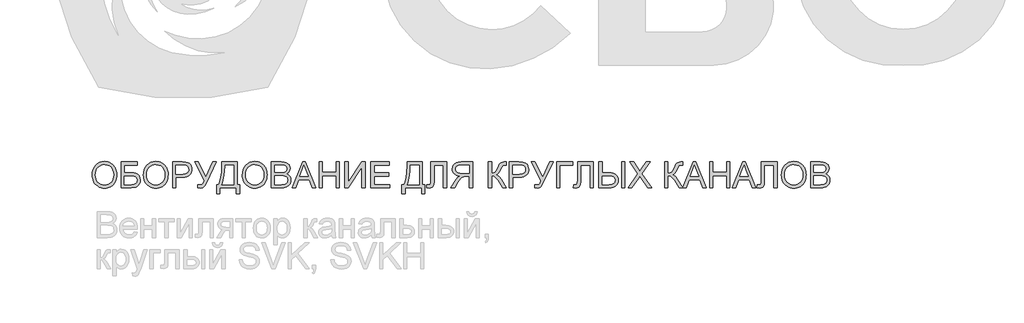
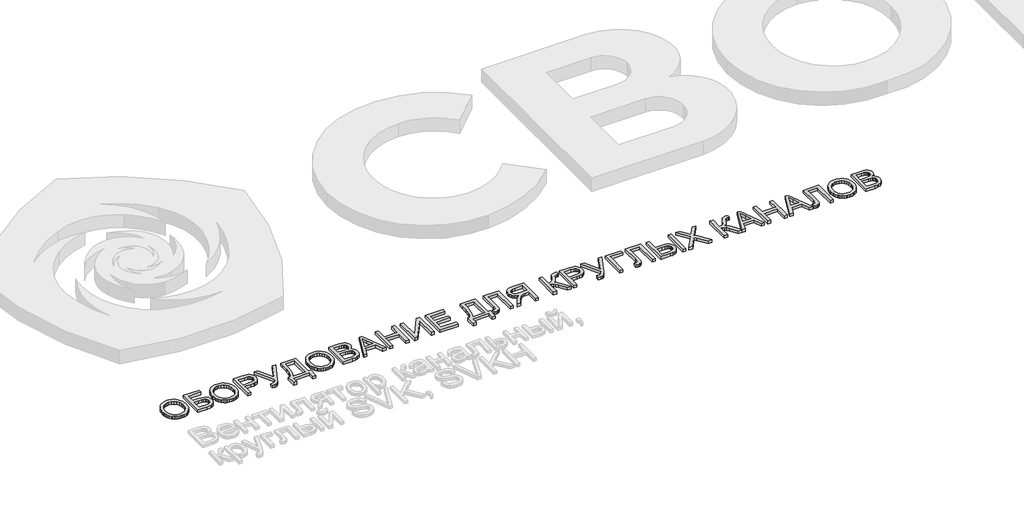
# One storey, part 18 of 31: 1 proxy.
"""IFC4 building model written with IfcOpenShell, lengths in millimetres."""

from ifc_helpers import new_model, si_unit, origin, origin_with_axes, place, context, project, spatial, polyline, outline, extrude, element, save

model = new_model("IFC4")

# Units and contexts
model_context = context("Model", 3, world=origin())
ifc_project = project(units=[si_unit("LENGTHUNIT", "METRE", prefix="MILLI")], contexts=[model_context])

# Site, building, storey
site = spatial("IfcSite", under=ifc_project)
building = spatial("IfcBuilding", under=site)
storey = spatial("IfcBuildingStorey", under=building, Name="Этаж 01", Elevation=0.0)

# Proxy
placement = place(None, origin())
element("IfcBuildingElementProxy", 1, Name="450 мм Arial", ObjectType="450 мм Arial", at=placement, inside=storey, context=model_context, shape_type="SweptSolid", body=[
    extrude(outline(polyline([(726.643365, -1393.708141), (730.3895847, -1340.9660333), (741.6282438, -1294.2755113), (760.3593423, -1253.6365749), (786.5828801, -1219.0492242), (818.7276407, -1191.432861), (855.2224073, -1171.7068874), (896.0671799, -1159.8713032), (941.2619586, -1155.9261084), (971.5130257, -1157.7786347), (1000.2409046, -1163.3362133), (1027.4455952, -1172.5988444), (1053.1270976, -1185.566528), (1076.5649849, -1201.8481751), (1097.0388303, -1221.052697), (1114.5486337, -1243.1800935), (1129.0943952, -1268.2303648), (1140.5251681, -1295.6340305), (1148.6900059, -1324.8216103), (1153.5889086, -1355.7931043), (1155.2218761, -1388.5485124), (1153.5031435, -1421.7361766), (1148.3469455, -1453.1262043), (1139.7532822, -1482.7185954), (1127.7221535, -1510.51335), (1112.5382997, -1535.7763187), (1094.4864609, -1557.7733523), (1073.5666369, -1576.5044508), (1049.778828, -1591.9696141), (1024.0595889, -1604.0727854), (997.3454747, -1612.7179078), (969.6364852, -1617.9049812), (940.9326206, -1619.6340057), (910.1532404, -1617.7231592), (881.0479951, -1611.9906197), (853.6168846, -1602.4363873), (827.8599089, -1589.0604618), (804.4494664, -1572.3808646), (784.0579555, -1552.9156168), (766.6853763, -1530.6647185), (752.3317286, -1505.6281697), (741.0930696, -1478.8111373), (733.0654559, -1451.2187884), (728.2488877, -1422.851123), (726.643365, -1393.708141)]), holes=[polyline([(782.8503829, -1394.2570376), (785.6600476, -1431.5202596), (794.089042, -1464.5981445), (808.1373658, -1493.4906923), (827.8050192, -1518.1979032), (851.7128993, -1537.9856277), (878.4819032, -1552.1197167), (908.112031, -1560.6001701), (940.6032826, -1563.4269879), (973.650292, -1560.5727252), (1003.6303414, -1552.0099374), (1030.5434307, -1537.7386242), (1054.3895599, -1517.7587859), (1073.913128, -1492.5301232), (1087.8585337, -1462.5123372), (1096.2257771, -1427.7054278), (1099.0148583, -1388.1093951), (1094.2394574, -1338.351913), (1079.9132546, -1295.3458597), (1056.4067552, -1260.1753063), (1024.0904644, -1233.9243236), (985.1050792, -1217.5809256), (941.5912966, -1212.1331263), (910.2287137, -1214.7575384), (881.1303296, -1222.6307749), (854.2961442, -1235.7528356), (829.7261575, -1254.1237207), (809.2180061, -1278.6285259), (794.5693265, -1310.1523471), (785.7801188, -1348.6951844), (782.8503829, -1394.2570376)])]), origin_with_axes(), (0.0, 0.0, 1.0), 50.0),
    extrude(outline(polyline([(1232.5065257, -1162.9519857), (1513.5416149, -1162.9519857), (1513.5416149, -1219.1590035), (1288.7135435, -1219.1590035), (1288.7135435, -1352.6506709), (1393.9919227, -1352.6506709), (1446.3292191, -1355.5049335), (1486.755458, -1364.0677214), (1517.7955641, -1380.562066), (1541.9744619, -1407.2109988), (1557.5356821, -1441.51704), (1562.7227556, -1480.9827097), (1559.0314255, -1514.1223455), (1547.9574355, -1545.0389498), (1529.555675, -1572.1132775), (1503.8810338, -1593.7260834), (1486.6525399, -1601.9869781), (1464.2781398, -1607.8876172), (1404.0916212, -1612.6081285), (1232.5065257, -1612.6081285), (1232.5065257, -1162.9519857)]), holes=[polyline([(1288.7135435, -1556.4011106), (1409.1414705, -1556.4011106), (1451.7084063, -1551.7629339), (1468.4428932, -1545.9652129), (1482.1447261, -1537.8484036), (1492.8070437, -1527.4125058), (1500.4229848, -1514.6575197), (1504.9925495, -1499.5834452), (1506.5157377, -1482.1902824), (1503.0302439, -1458.0113846), (1492.5737626, -1438.1687703), (1475.9010266, -1423.4583399), (1453.7667688, -1414.6759934), (1420.1605709, -1410.3122649), (1369.0720144, -1408.8576888), (1288.7135435, -1408.8576888), (1288.7135435, -1556.4011106)])]), origin_with_axes(), (0.0, 0.0, 1.0), 50.0),
    extrude(outline(polyline([(1618.9297734, -1393.708141), (1622.6759931, -1340.9660333), (1633.9146522, -1294.2755113), (1652.6457507, -1253.6365749), (1678.8692886, -1219.0492242), (1711.0140491, -1191.432861), (1747.5088157, -1171.7068874), (1788.3535883, -1159.8713032), (1833.548367, -1155.9261084), (1863.7994341, -1157.7786347), (1892.527313, -1163.3362133), (1919.7320036, -1172.5988444), (1945.413506, -1185.566528), (1968.8513934, -1201.8481751), (1989.3252387, -1221.052697), (2006.8350421, -1243.1800935), (2021.3808036, -1268.2303648), (2032.8115765, -1295.6340305), (2040.9764143, -1324.8216103), (2045.875317, -1355.7931043), (2047.5082845, -1388.5485124), (2045.7895519, -1421.7361766), (2040.6333539, -1453.1262043), (2032.0396906, -1482.7185954), (2020.0085619, -1510.51335), (2004.8247081, -1535.7763187), (1986.7728693, -1557.7733523), (1965.8530454, -1576.5044508), (1942.0652364, -1591.9696141), (1916.3459973, -1604.0727854), (1889.6318831, -1612.7179078), (1861.9228936, -1617.9049812), (1833.219029, -1619.6340057), (1802.4396488, -1617.7231592), (1773.3344035, -1611.9906197), (1745.903293, -1602.4363873), (1720.1463173, -1589.0604618), (1696.7358748, -1572.3808646), (1676.3443639, -1552.9156168), (1658.9717847, -1530.6647185), (1644.618137, -1505.6281697), (1633.379478, -1478.8111373), (1625.3518643, -1451.2187884), (1620.5352961, -1422.851123), (1618.9297734, -1393.708141)]), holes=[polyline([(1675.1367913, -1394.2570376), (1677.946456, -1431.5202596), (1686.3754504, -1464.5981445), (1700.4237742, -1493.4906923), (1720.0914276, -1518.1979032), (1743.9993077, -1537.9856277), (1770.7683116, -1552.1197167), (1800.3984394, -1560.6001701), (1832.889691, -1563.4269879), (1865.9367004, -1560.5727252), (1895.9167498, -1552.0099374), (1922.8298391, -1537.7386242), (1946.6759683, -1517.7587859), (1966.1995364, -1492.5301232), (1980.1449421, -1462.5123372), (1988.5121855, -1427.7054278), (1991.3012667, -1388.1093951), (1986.5258658, -1338.351913), (1972.199663, -1295.3458597), (1948.6931636, -1260.1753063), (1916.3768728, -1233.9243236), (1877.3914876, -1217.5809256), (1833.877705, -1212.1331263), (1802.5151221, -1214.7575384), (1773.416738, -1222.6307749), (1746.5825526, -1235.7528356), (1722.0125659, -1254.1237207), (1701.5044145, -1278.6285259), (1686.8557349, -1310.1523471), (1678.0665272, -1348.6951844), (1675.1367913, -1394.2570376)])]), origin_with_axes(), (0.0, 0.0, 1.0), 50.0),
    extrude(outline(polyline([(2124.7929341, -1612.6081285), (2124.7929341, -1162.9519857), (2291.4379597, -1162.9519857), (2358.6229107, -1167.2333796), (2388.5789459, -1175.2335484), (2413.2381282, -1188.2561216), (2433.0944649, -1206.8911632), (2448.6419627, -1231.728737), (2458.6867716, -1261.0260962), (2462.0350412, -1293.0404938), (2459.7742731, -1320.6431345), (2452.9919688, -1346.0364662), (2441.6881282, -1369.2204888), (2425.8627514, -1390.1952024), (2404.1367355, -1407.581504), (2375.1309777, -1420.0002909), (2338.845478, -1427.4515631), (2295.2802363, -1429.9353205), (2180.9999519, -1429.9353205), (2180.9999519, -1612.6081285), (2124.7929341, -1612.6081285)]), holes=[polyline([(2180.9999519, -1373.7283026), (2298.5736162, -1373.7283026), (2348.4134329, -1368.568674), (2366.9935847, -1362.1191383), (2381.3472324, -1353.0897882), (2392.0575784, -1341.7207662), (2399.7078256, -1328.2522144), (2404.2979739, -1312.684133), (2405.8280234, -1295.0165218), (2402.2190278, -1269.7672755), (2391.3920412, -1248.4700851), (2374.6918604, -1232.4423027), (2353.4632821, -1223.0012801), (2297.2562643, -1219.1590035), (2180.9999519, -1219.1590035), (2180.9999519, -1373.7283026)])]), origin_with_axes(), (0.0, 0.0, 1.0), 50.0),
    extrude(outline(polyline([(2507.7032432, -1162.9519857), (2569.9481243, -1162.9519857), (2704.4278057, -1429.2766445), (2825.4046293, -1162.9519857), (2887.1006137, -1162.9519857), (2716.3937529, -1513.2578333), (2690.6230547, -1567.6534921), (2669.9570955, -1599.3248293), (2659.9191479, -1608.210094), (2647.9188947, -1614.5567116), (2618.0314716, -1619.6340057), (2567.4231997, -1612.6081285), (2567.4231997, -1563.4269879), (2611.6642704, -1563.4269879), (2629.3661876, -1560.2982769), (2644.4882906, -1550.912144), (2659.0066072, -1530.4108538), (2674.8971655, -1493.9366709), (2507.7032432, -1162.9519857)])), origin_with_axes(), (0.0, 0.0, 1.0), 50.0),
    extrude(outline(polyline([(2981.9499563, -1162.9519857), (3248.9332911, -1162.9519857), (3248.9332911, -1556.4011106), (3291.0885545, -1556.4011106), (3291.0885545, -1717.996287), (3234.8815367, -1717.996287), (3234.8815367, -1612.6081285), (2946.8205702, -1612.6081285), (2946.8205702, -1717.996287), (2890.6135523, -1717.996287), (2890.6135523, -1556.4011106), (2925.7429385, -1556.4011106), (2938.9164583, -1533.5001128), (2950.3335088, -1505.4154722), (2967.8982019, -1433.6952626), (2978.4370177, -1341.2404816), (2981.9499563, -1228.0511294), (2981.9499563, -1162.9519857)]), holes=[polyline([(3192.7262733, -1219.1590035), (3038.1569742, -1219.1590035), (3038.1569742, -1241.7735459), (3035.3027116, -1308.4370451), (3026.7399237, -1395.7939483), (3019.6591568, -1442.4707479), (3009.8339066, -1484.7975415), (2997.2641731, -1522.7743291), (2981.9499563, -1556.4011106), (3192.7262733, -1556.4011106), (3192.7262733, -1219.1590035)])]), origin_with_axes(), (0.0, 0.0, 1.0), 50.0),
    extrude(outline(polyline([(3340.2696951, -1393.708141), (3344.0159148, -1340.9660333), (3355.2545739, -1294.2755113), (3373.9856724, -1253.6365749), (3400.2092103, -1219.0492242), (3432.3539709, -1191.432861), (3468.8487374, -1171.7068874), (3509.6935101, -1159.8713032), (3554.8882887, -1155.9261084), (3585.1393558, -1157.7786347), (3613.8672347, -1163.3362133), (3641.0719253, -1172.5988444), (3666.7534277, -1185.566528), (3690.1913151, -1201.8481751), (3710.6651604, -1221.052697), (3728.1749639, -1243.1800935), (3742.7207253, -1268.2303648), (3754.1514982, -1295.6340305), (3762.316336, -1324.8216103), (3767.2152387, -1355.7931043), (3768.8482063, -1388.5485124), (3767.1294736, -1421.7361766), (3761.9732756, -1453.1262043), (3753.3796123, -1482.7185954), (3741.3484837, -1510.51335), (3726.1646298, -1535.7763187), (3708.112791, -1557.7733523), (3687.1929671, -1576.5044508), (3663.4051581, -1591.9696141), (3637.6859191, -1604.0727854), (3610.9718048, -1612.7179078), (3583.2628154, -1617.9049812), (3554.5589507, -1619.6340057), (3523.7795706, -1617.7231592), (3494.6743252, -1611.9906197), (3467.2432147, -1602.4363873), (3441.486239, -1589.0604618), (3418.0757965, -1572.3808646), (3397.6842856, -1552.9156168), (3380.3117064, -1530.6647185), (3365.9580588, -1505.6281697), (3354.7193997, -1478.8111373), (3346.6917861, -1451.2187884), (3341.8752179, -1422.851123), (3340.2696951, -1393.708141)]), holes=[polyline([(3396.476713, -1394.2570376), (3399.2863778, -1431.5202596), (3407.7153721, -1464.5981445), (3421.7636959, -1493.4906923), (3441.4313493, -1518.1979032), (3465.3392294, -1537.9856277), (3492.1082334, -1552.1197167), (3521.7383611, -1560.6001701), (3554.2296127, -1563.4269879), (3587.2766222, -1560.5727252), (3617.2566715, -1552.0099374), (3644.1697608, -1537.7386242), (3668.0158901, -1517.7587859), (3687.5394581, -1492.5301232), (3701.4848638, -1462.5123372), (3709.8521073, -1427.7054278), (3712.6411884, -1388.1093951), (3707.8657875, -1338.351913), (3693.5395847, -1295.3458597), (3670.0330853, -1260.1753063), (3637.7167945, -1233.9243236), (3598.7314093, -1217.5809256), (3555.2176267, -1212.1331263), (3523.8550439, -1214.7575384), (3494.7566597, -1222.6307749), (3467.9224743, -1235.7528356), (3443.3524877, -1254.1237207), (3422.8443362, -1278.6285259), (3408.1956567, -1310.1523471), (3399.4064489, -1348.6951844), (3396.476713, -1394.2570376)])]), origin_with_axes(), (0.0, 0.0, 1.0), 50.0),
    extrude(outline(polyline([(3846.1328558, -1612.6081285), (3846.1328558, -1162.9519857), (4017.7179513, -1162.9519857), (4064.9093416, -1166.259088), (4101.7540298, -1176.1803951), (4129.9947629, -1192.9629105), (4151.3742877, -1216.8536376), (4164.8359783, -1244.9571465), (4169.3232085, -1274.3780074), (4165.5495439, -1301.4523351), (4154.2285503, -1326.9074176), (4135.2778932, -1349.1788996), (4108.615238, -1366.7024254), (4140.4649666, -1383.3339941), (4163.9989109, -1408.6381301), (4178.5309499, -1440.9406985), (4183.3749629, -1478.5675644), (4180.0678606, -1509.9232861), (4170.1465535, -1539.0010866), (4155.3400661, -1563.728881), (4137.3774229, -1582.0345846), (4115.3803893, -1595.2904389), (4088.4707306, -1604.8686856), (4055.7702122, -1610.6732678), (4016.4005993, -1612.6081285), (3846.1328558, -1612.6081285)]), holes=[polyline([(3902.3398737, -1345.6247937), (4004.9835488, -1345.6247937), (4040.8813903, -1344.417221), (4064.923064, -1340.7945031), (4085.9046388, -1332.4649963), (4100.9855745, -1319.9913197), (4110.0835366, -1303.5655872), (4113.1161906, -1283.3799126), (4110.2893728, -1263.7843019), (4101.8089194, -1246.7136158), (4088.0590581, -1233.3891494), (4069.4240166, -1225.0321978), (4040.8265007, -1220.6273021), (3997.1892163, -1219.1590035), (3902.3398737, -1219.1590035), (3902.3398737, -1345.6247937)]), polyline([(3902.3398737, -1556.4011106), (4017.608172, -1556.4011106), (4059.3243181, -1554.205524), (4078.6866477, -1549.3340662), (4094.6183732, -1541.9651285), (4107.5723344, -1531.4125902), (4118.0013709, -1516.9903305), (4124.8763015, -1499.343303), (4127.1679451, -1479.1164611), (4124.4783514, -1455.6236841), (4116.4095706, -1435.4242871), (4102.3166489, -1419.6297857), (4081.5546327, -1409.3516958), (4052.1474942, -1403.7117826), (4012.1192054, -1401.8318115), (3902.3398737, -1401.8318115), (3902.3398737, -1556.4011106)])]), origin_with_axes(), (0.0, 0.0, 1.0), 50.0),
    extrude(outline(polyline([(4208.2948712, -1612.6081285), (4387.7840786, -1162.9519857), (4435.6478673, -1162.9519857), (4615.1370747, -1612.6081285), (4555.7464562, -1612.6081285), (4504.2599496, -1472.0905839), (4319.062217, -1472.0905839), (4267.6854897, -1612.6081285), (4208.2948712, -1612.6081285)]), holes=[polyline([(4339.7007313, -1415.883566), (4483.7312146, -1415.883566), (4443.2226412, -1305.3357789), (4411.715973, -1219.1590035), (4383.7222434, -1295.6751977), (4339.7007313, -1415.883566)])]), origin_with_axes(), (0.0, 0.0, 1.0), 50.0),
    extrude(outline(polyline([(4675.1863691, -1612.6081285), (4675.1863691, -1162.9519857), (4731.393387, -1162.9519857), (4731.393387, -1345.6247937), (4970.2732129, -1345.6247937), (4970.2732129, -1162.9519857), (5026.4802307, -1162.9519857), (5026.4802307, -1612.6081285), (4970.2732129, -1612.6081285), (4970.2732129, -1401.8318115), (4731.393387, -1401.8318115), (4731.393387, -1612.6081285), (4675.1863691, -1612.6081285)])), origin_with_axes(), (0.0, 0.0, 1.0), 50.0),
    extrude(outline(polyline([(5124.842512, -1162.9519857), (5181.0495298, -1162.9519857), (5181.0495298, -1519.0761378), (5416.4164171, -1162.9519857), (5476.1363735, -1162.9519857), (5476.1363735, -1612.6081285), (5419.9293557, -1612.6081285), (5419.9293557, -1257.4719903), (5185.1113651, -1612.6081285), (5124.842512, -1612.6081285), (5124.842512, -1162.9519857)])), origin_with_axes(), (0.0, 0.0, 1.0), 50.0),
    extrude(outline(polyline([(5574.4986548, -1612.6081285), (5574.4986548, -1162.9519857), (5897.6890074, -1162.9519857), (5897.6890074, -1219.1590035), (5630.7056726, -1219.1590035), (5630.7056726, -1352.6506709), (5883.637253, -1352.6506709), (5883.637253, -1408.8576888), (5630.7056726, -1408.8576888), (5630.7056726, -1556.4011106), (5904.7148847, -1556.4011106), (5904.7148847, -1612.6081285), (5574.4986548, -1612.6081285)])), origin_with_axes(), (0.0, 0.0, 1.0), 50.0),
    extrude(outline(polyline([(6206.8276056, -1162.9519857), (6473.8109404, -1162.9519857), (6473.8109404, -1556.4011106), (6515.9662038, -1556.4011106), (6515.9662038, -1717.996287), (6459.7591859, -1717.996287), (6459.7591859, -1612.6081285), (6171.6982194, -1612.6081285), (6171.6982194, -1717.996287), (6115.4912016, -1717.996287), (6115.4912016, -1556.4011106), (6150.6205878, -1556.4011106), (6163.7941076, -1533.5001128), (6175.2111581, -1505.4154722), (6192.7758511, -1433.6952626), (6203.314667, -1341.2404816), (6206.8276056, -1228.0511294), (6206.8276056, -1162.9519857)]), holes=[polyline([(6417.6039226, -1219.1590035), (6263.0346235, -1219.1590035), (6263.0346235, -1241.7735459), (6260.1803608, -1308.4370451), (6251.617573, -1395.7939483), (6244.5368061, -1442.4707479), (6234.7115559, -1484.7975415), (6222.1418224, -1522.7743291), (6206.8276056, -1556.4011106), (6417.6039226, -1556.4011106), (6417.6039226, -1219.1590035)])]), origin_with_axes(), (0.0, 0.0, 1.0), 50.0),
    extrude(outline(polyline([(6621.3543623, -1162.9519857), (6895.3635743, -1162.9519857), (6895.3635743, -1612.6081285), (6839.1565564, -1612.6081285), (6839.1565564, -1219.1590035), (6677.5613801, -1219.1590035), (6677.5613801, -1448.5978069), (6675.9284126, -1509.0999411), (6671.0295099, -1550.9670337), (6660.9160889, -1579.8938876), (6643.6395666, -1601.5753056), (6619.9821206, -1615.1193307), (6590.7259287, -1619.6340057), (6544.0697127, -1612.6081285), (6551.09559, -1556.4011106), (6577.9915262, -1563.4269879), (6596.997073, -1559.6533233), (6610.5410981, -1548.3323297), (6618.6510462, -1523.0144714), (6621.3543623, -1477.2502124), (6621.3543623, -1162.9519857)])), origin_with_axes(), (0.0, 0.0, 1.0), 50.0),
    extrude(outline(polyline([(7345.0197171, -1612.6081285), (7288.8126993, -1612.6081285), (7288.8126993, -1415.883566), (7220.9690722, -1415.883566), (7188.3646107, -1417.859594), (7161.6333434, -1428.5630788), (7147.6502011, -1439.7194034), (7131.9380342, -1457.7094914), (7089.6729915, -1519.4054758), (7031.1606077, -1612.6081285), (6965.8419053, -1612.6081285), (7040.8211889, -1490.7530702), (7086.3796115, -1432.8993624), (7118.3253971, -1408.8576888), (7088.5649063, -1402.9090212), (7062.9554466, -1393.9551445), (7041.4970179, -1381.9960585), (7024.1896201, -1367.0317634), (7010.8617231, -1349.6180169), (7001.3417967, -1330.3105769), (6995.6298408, -1309.1094435), (6993.7258555, -1286.0146166), (6998.3228651, -1250.4049458), (7012.1138936, -1218.0063205), (7033.6031978, -1191.8788396), (7061.2950342, -1175.0826018), (7099.1826261, -1165.9846397), (7151.2591966, -1162.9519857), (7345.0197171, -1162.9519857), (7345.0197171, -1612.6081285)]), holes=[polyline([(7288.8126993, -1359.6765481), (7288.8126993, -1219.1590035), (7148.8440513, -1219.1590035), (7104.3696995, -1224.0167389), (7087.3093052, -1230.0889082), (7073.7000987, -1238.5899452), (7055.8746797, -1260.6830358), (7051.418325, -1273.7261926), (7049.9328734, -1288.1004239), (7053.0478619, -1307.9567605), (7062.3928275, -1326.2487416), (7077.7344892, -1341.3708446), (7098.8395657, -1351.7175466), (7126.8744625, -1357.6867978), (7163.0055851, -1359.6765481), (7288.8126993, -1359.6765481)])]), origin_with_axes(), (0.0, 0.0, 1.0), 50.0),
    extrude(outline(polyline([(7619.0289291, -1162.9519857), (7675.235947, -1162.9519857), (7675.235947, -1359.6765481), (7713.2882079, -1355.9577733), (7738.0846144, -1344.8014487), (7758.1330649, -1318.550466), (7781.9414574, -1269.5477168), (7812.9541187, -1206.6990494), (7827.9115526, -1189.6695305), (7848.0835048, -1175.5766088), (7872.0291216, -1166.1081415), (7898.3075491, -1162.9519857), (7935.1934046, -1163.6106617), (7935.1934046, -1219.8176795), (7922.7883401, -1219.4883415), (7910.3832756, -1219.1590035), (7884.6400223, -1222.534718), (7866.4715429, -1232.6618613), (7850.8279881, -1253.9316068), (7833.098626, -1290.5155692), (7811.3485959, -1336.0739918), (7793.3036183, -1360.9939001), (7775.5056441, -1374.1125303), (7754.4966245, -1384.2671185), (7776.2672382, -1393.5297496), (7797.8869054, -1409.6810338), (7819.3556259, -1432.720971), (7840.6733999, -1462.6495613), (7935.1934046, -1612.6081285), (7869.9844815, -1612.6081285), (7790.065128, -1485.9227797), (7759.2034134, -1445.2907045), (7733.8032205, -1419.7807323), (7707.8266861, -1406.3190417), (7675.235947, -1401.8318115), (7675.235947, -1612.6081285), (7619.0289291, -1612.6081285), (7619.0289291, -1162.9519857)])), origin_with_axes(), (0.0, 0.0, 1.0), 50.0),
    extrude(outline(polyline([(7984.3745452, -1612.6081285), (7984.3745452, -1162.9519857), (8151.0195708, -1162.9519857), (8218.2045218, -1167.2333796), (8248.1605569, -1175.2335484), (8272.8197393, -1188.2561216), (8292.676076, -1206.8911632), (8308.2235738, -1231.728737), (8318.2683827, -1261.0260962), (8321.6166523, -1293.0404938), (8319.3558842, -1320.6431345), (8312.5735798, -1346.0364662), (8301.2697393, -1369.2204888), (8285.4443625, -1390.1952024), (8263.7183466, -1407.581504), (8234.7125888, -1420.0002909), (8198.4270891, -1427.4515631), (8154.8618474, -1429.9353205), (8040.581563, -1429.9353205), (8040.581563, -1612.6081285), (7984.3745452, -1612.6081285)]), holes=[polyline([(8040.581563, -1373.7283026), (8158.1552273, -1373.7283026), (8207.9950439, -1368.568674), (8226.5751958, -1362.1191383), (8240.9288435, -1353.0897882), (8251.6391895, -1341.7207662), (8259.2894367, -1328.2522144), (8263.879585, -1312.684133), (8265.4096344, -1295.0165218), (8261.8006389, -1269.7672755), (8250.9736523, -1248.4700851), (8234.2734715, -1232.4423027), (8213.0448932, -1223.0012801), (8156.8378753, -1219.1590035), (8040.581563, -1219.1590035), (8040.581563, -1373.7283026)])]), origin_with_axes(), (0.0, 0.0, 1.0), 50.0),
    extrude(outline(polyline([(8367.2848543, -1162.9519857), (8429.5297354, -1162.9519857), (8564.0094168, -1429.2766445), (8684.9862404, -1162.9519857), (8746.6822248, -1162.9519857), (8575.9753639, -1513.2578333), (8550.2046658, -1567.6534921), (8529.5387066, -1599.3248293), (8519.500759, -1608.210094), (8507.5005058, -1614.5567116), (8477.6130827, -1619.6340057), (8427.0048108, -1612.6081285), (8427.0048108, -1563.4269879), (8471.2458815, -1563.4269879), (8488.9477987, -1560.2982769), (8504.0699016, -1550.912144), (8518.5882183, -1530.4108538), (8534.4787765, -1493.9366709), (8367.2848543, -1162.9519857)])), origin_with_axes(), (0.0, 0.0, 1.0), 50.0),
    extrude(outline(polyline([(8806.4021813, -1162.9519857), (9087.4372705, -1162.9519857), (9087.4372705, -1219.1590035), (8862.6091991, -1219.1590035), (8862.6091991, -1612.6081285), (8806.4021813, -1612.6081285), (8806.4021813, -1162.9519857)])), origin_with_axes(), (0.0, 0.0, 1.0), 50.0),
    extrude(outline(polyline([(9171.7477973, -1162.9519857), (9445.7570093, -1162.9519857), (9445.7570093, -1612.6081285), (9389.5499915, -1612.6081285), (9389.5499915, -1219.1590035), (9227.9548152, -1219.1590035), (9227.9548152, -1448.5978069), (9226.3218476, -1509.0999411), (9221.4229449, -1550.9670337), (9211.309524, -1579.8938876), (9194.0330017, -1601.5753056), (9170.3755557, -1615.1193307), (9141.1193638, -1619.6340057), (9094.4631478, -1612.6081285), (9101.489025, -1556.4011106), (9128.3849613, -1563.4269879), (9147.3905081, -1559.6533233), (9160.9345331, -1548.3323297), (9169.0444813, -1523.0144714), (9171.7477973, -1477.2502124), (9171.7477973, -1162.9519857)])), origin_with_axes(), (0.0, 0.0, 1.0), 50.0),
    extrude(outline(polyline([(9937.5684155, -1162.9519857), (9993.7754334, -1162.9519857), (9993.7754334, -1612.6081285), (9937.5684155, -1612.6081285), (9937.5684155, -1162.9519857)])), origin_with_axes(), (0.0, 0.0, 1.0), 50.0),
    extrude(outline(polyline([(9544.1192906, -1162.9519857), (9600.3263084, -1162.9519857), (9600.3263084, -1352.6506709), (9708.3491709, -1352.6506709), (9756.8373295, -1355.1069835), (9796.2549708, -1362.4759211), (9826.6020948, -1374.7574838), (9847.8787015, -1391.9516717), (9862.5273811, -1412.2608481), (9872.9907236, -1433.8873764), (9879.2687292, -1456.8312567), (9881.3613977, -1481.0924891), (9879.148658, -1506.5647246), (9872.5104391, -1530.3971314), (9861.4467408, -1552.5897095), (9845.9575632, -1573.1424587), (9824.4579672, -1590.4086892), (9795.3630137, -1602.741711), (9758.6727027, -1610.1415241), (9714.3870341, -1612.6081285), (9544.1192906, -1612.6081285), (9544.1192906, -1162.9519857)]), holes=[polyline([(9600.3263084, -1556.4011106), (9713.8381375, -1556.4011106), (9764.3229076, -1551.9413253), (9783.5445825, -1546.3665936), (9798.7524506, -1538.5619692), (9810.3032946, -1528.3010323), (9818.5538975, -1515.357363), (9823.5042593, -1499.7309612), (9825.1543798, -1481.4218271), (9821.1611566, -1456.9135912), (9809.1814871, -1436.741639), (9790.8757835, -1422.0037637), (9767.9044583, -1413.7977587), (9734.1335914, -1410.0927063), (9683.4292626, -1408.8576888), (9600.3263084, -1408.8576888), (9600.3263084, -1556.4011106)])]), origin_with_axes(), (0.0, 0.0, 1.0), 50.0),
    extrude(outline(polyline([(10049.9824512, -1612.6081285), (10223.3240161, -1367.58066), (10078.0859602, -1162.9519857), (10145.4904699, -1162.9519857), (10227.276072, -1278.1105047), (10254.8306843, -1323.0102513), (10287.1058078, -1277.3420493), (10368.0131753, -1162.9519857), (10436.405699, -1162.9519857), (10291.1676431, -1368.239336), (10464.5092079, -1612.6081285), (10397.1046982, -1612.6081285), (10281.6168412, -1449.6956002), (10257.5751676, -1415.883566), (10231.1183486, -1452.9889801), (10118.3749749, -1612.6081285), (10049.9824512, -1612.6081285)])), origin_with_axes(), (0.0, 0.0, 1.0), 50.0),
    extrude(outline(polyline([(10940.2928317, -1612.6081285), (10860.3734782, -1485.9227797), (10829.5117635, -1445.2907045), (10804.1115707, -1419.7807323), (10778.1350363, -1406.3190417), (10745.5442972, -1401.8318115), (10745.5442972, -1612.6081285), (10689.3372793, -1612.6081285), (10689.3372793, -1162.9519857), (10745.5442972, -1162.9519857), (10745.5442972, -1359.6765481), (10783.596558, -1355.9577733), (10808.3929646, -1344.8014487), (10828.4414151, -1318.550466), (10852.2498076, -1269.5477168), (10883.2624688, -1206.6990494), (10898.2199028, -1189.6695305), (10918.391855, -1175.5766088), (10942.3374717, -1166.1081415), (10968.6158993, -1162.9519857), (11005.5017547, -1163.6106617), (11005.5017547, -1219.8176795), (10993.0966902, -1219.4883415), (10980.6916258, -1219.1590035), (10954.9483725, -1222.534718), (10936.7798931, -1232.6618613), (10921.1363383, -1253.9316068), (10903.4069762, -1290.5155692), (10881.6569461, -1336.0739918), (10863.6119685, -1360.9939001), (10845.8139943, -1374.1125303), (10824.8049747, -1384.2671185), (10846.5755884, -1393.5297496), (10868.1952556, -1409.6810338), (10889.6639761, -1432.720971), (10910.9817501, -1462.6495613), (11003.5525645, -1609.515685), (11181.8073615, -1162.9519857), (11229.6711502, -1162.9519857), (11409.1603576, -1612.6081285), (11349.7697391, -1612.6081285), (11298.2832325, -1472.0905839), (11113.0854998, -1472.0905839), (11061.7087726, -1612.6081285), (11005.5017547, -1612.6081285), (11002.3181541, -1612.6081285), (10940.2928317, -1612.6081285)]), holes=[polyline([(11133.7240142, -1415.883566), (11277.7544975, -1415.883566), (11237.245924, -1305.3357789), (11205.7392558, -1219.1590035), (11177.7455262, -1295.6751977), (11133.7240142, -1415.883566)])]), origin_with_axes(), (0.0, 0.0, 1.0), 50.0),
    extrude(outline(polyline([(11469.209652, -1612.6081285), (11469.209652, -1162.9519857), (11525.4166699, -1162.9519857), (11525.4166699, -1345.6247937), (11764.2964957, -1345.6247937), (11764.2964957, -1162.9519857), (11820.5035136, -1162.9519857), (11820.5035136, -1612.6081285), (11764.2964957, -1612.6081285), (11764.2964957, -1401.8318115), (11525.4166699, -1401.8318115), (11525.4166699, -1612.6081285), (11469.209652, -1612.6081285)])), origin_with_axes(), (0.0, 0.0, 1.0), 50.0),
    extrude(outline(polyline([(11866.5010536, -1612.6081285), (12045.990261, -1162.9519857), (12093.8540496, -1162.9519857), (12273.343257, -1612.6081285), (12213.9526386, -1612.6081285), (12162.466132, -1472.0905839), (11977.2683993, -1472.0905839), (11925.8916721, -1612.6081285), (11866.5010536, -1612.6081285)]), holes=[polyline([(11997.9069137, -1415.883566), (12141.9373969, -1415.883566), (12101.4288235, -1305.3357789), (12069.9221553, -1219.1590035), (12041.9284257, -1295.6751977), (11997.9069137, -1415.883566)])]), origin_with_axes(), (0.0, 0.0, 1.0), 50.0),
    extrude(outline(polyline([(12368.5219377, -1162.9519857), (12642.5311497, -1162.9519857), (12642.5311497, -1612.6081285), (12586.3241318, -1612.6081285), (12586.3241318, -1219.1590035), (12424.7289555, -1219.1590035), (12424.7289555, -1448.5978069), (12423.0959879, -1509.0999411), (12418.1970853, -1550.9670337), (12408.0836643, -1579.8938876), (12390.807142, -1601.5753056), (12367.149696, -1615.1193307), (12337.8935041, -1619.6340057), (12291.2372881, -1612.6081285), (12298.2631653, -1556.4011106), (12325.1591016, -1563.4269879), (12344.1646484, -1559.6533233), (12357.7086735, -1548.3323297), (12365.8186216, -1523.0144714), (12368.5219377, -1477.2502124), (12368.5219377, -1162.9519857)])), origin_with_axes(), (0.0, 0.0, 1.0), 50.0),
    extrude(outline(polyline([(12719.8157992, -1393.708141), (12723.5620189, -1340.9660333), (12734.800678, -1294.2755113), (12753.5317765, -1253.6365749), (12779.7553144, -1219.0492242), (12811.9000749, -1191.432861), (12848.3948415, -1171.7068874), (12889.2396141, -1159.8713032), (12934.4343928, -1155.9261084), (12964.6854599, -1157.7786347), (12993.4133388, -1163.3362133), (13020.6180294, -1172.5988444), (13046.2995318, -1185.566528), (13069.7374192, -1201.8481751), (13090.2112645, -1221.052697), (13107.7210679, -1243.1800935), (13122.2668294, -1268.2303648), (13133.6976023, -1295.6340305), (13141.8624401, -1324.8216103), (13146.7613428, -1355.7931043), (13148.3943103, -1388.5485124), (13146.6755777, -1421.7361766), (13141.5193797, -1453.1262043), (13132.9257164, -1482.7185954), (13120.8945877, -1510.51335), (13105.7107339, -1535.7763187), (13087.6588951, -1557.7733523), (13066.7390712, -1576.5044508), (13042.9512622, -1591.9696141), (13017.2320231, -1604.0727854), (12990.5179089, -1612.7179078), (12962.8089194, -1617.9049812), (12934.1050548, -1619.6340057), (12903.3256747, -1617.7231592), (12874.2204293, -1611.9906197), (12846.7893188, -1602.4363873), (12821.0323431, -1589.0604618), (12797.6219006, -1572.3808646), (12777.2303897, -1552.9156168), (12759.8578105, -1530.6647185), (12745.5041629, -1505.6281697), (12734.2655038, -1478.8111373), (12726.2378901, -1451.2187884), (12721.421322, -1422.851123), (12719.8157992, -1393.708141)]), holes=[polyline([(12776.0228171, -1394.2570376), (12778.8324819, -1431.5202596), (12787.2614762, -1464.5981445), (12801.3098, -1493.4906923), (12820.9774534, -1518.1979032), (12844.8853335, -1537.9856277), (12871.6543374, -1552.1197167), (12901.2844652, -1560.6001701), (12933.7757168, -1563.4269879), (12966.8227263, -1560.5727252), (12996.8027756, -1552.0099374), (13023.7158649, -1537.7386242), (13047.5619941, -1517.7587859), (13067.0855622, -1492.5301232), (13081.0309679, -1462.5123372), (13089.3982113, -1427.7054278), (13092.1872925, -1388.1093951), (13087.4118916, -1338.351913), (13073.0856888, -1295.3458597), (13049.5791894, -1260.1753063), (13017.2628986, -1233.9243236), (12978.2775134, -1217.5809256), (12934.7637308, -1212.1331263), (12903.4011479, -1214.7575384), (12874.3027638, -1222.6307749), (12847.4685784, -1235.7528356), (12822.8985917, -1254.1237207), (12802.3904403, -1278.6285259), (12787.7417607, -1310.1523471), (12778.952553, -1348.6951844), (12776.0228171, -1394.2570376)])]), origin_with_axes(), (0.0, 0.0, 1.0), 50.0),
    extrude(outline(polyline([(13225.6789599, -1612.6081285), (13225.6789599, -1162.9519857), (13397.2640554, -1162.9519857), (13444.4554456, -1166.259088), (13481.3001339, -1176.1803951), (13509.5408669, -1192.9629105), (13530.9203918, -1216.8536376), (13544.3820824, -1244.9571465), (13548.8693125, -1274.3780074), (13545.095648, -1301.4523351), (13533.7746544, -1326.9074176), (13514.8239973, -1349.1788996), (13488.1613421, -1366.7024254), (13520.0110707, -1383.3339941), (13543.545015, -1408.6381301), (13558.077054, -1440.9406985), (13562.921067, -1478.5675644), (13559.6139646, -1509.9232861), (13549.6926575, -1539.0010866), (13534.8861702, -1563.728881), (13516.923527, -1582.0345846), (13494.9264934, -1595.2904389), (13468.0168347, -1604.8686856), (13435.3163163, -1610.6732678), (13395.9467034, -1612.6081285), (13225.6789599, -1612.6081285)]), holes=[polyline([(13281.8859777, -1345.6247937), (13384.5296529, -1345.6247937), (13420.4274944, -1344.417221), (13444.4691681, -1340.7945031), (13465.4507428, -1332.4649963), (13480.5316785, -1319.9913197), (13489.6296407, -1303.5655872), (13492.6622947, -1283.3799126), (13489.8354769, -1263.7843019), (13481.3550235, -1246.7136158), (13467.6051622, -1233.3891494), (13448.9701207, -1225.0321978), (13420.3726047, -1220.6273021), (13376.7353204, -1219.1590035), (13281.8859777, -1219.1590035), (13281.8859777, -1345.6247937)]), polyline([(13281.8859777, -1556.4011106), (13397.1542761, -1556.4011106), (13438.8704221, -1554.205524), (13458.2327518, -1549.3340662), (13474.1644773, -1541.9651285), (13487.1184384, -1531.4125902), (13497.547475, -1516.9903305), (13504.4224056, -1499.343303), (13506.7140492, -1479.1164611), (13504.0244555, -1455.6236841), (13495.9556746, -1435.4242871), (13481.8627529, -1419.6297857), (13461.1007368, -1409.3516958), (13431.6935983, -1403.7117826), (13391.6653095, -1401.8318115), (13281.8859777, -1401.8318115), (13281.8859777, -1556.4011106)])]), origin_with_axes(), (0.0, 0.0, 1.0), 50.0),
])

save(model, "model.ifc")
